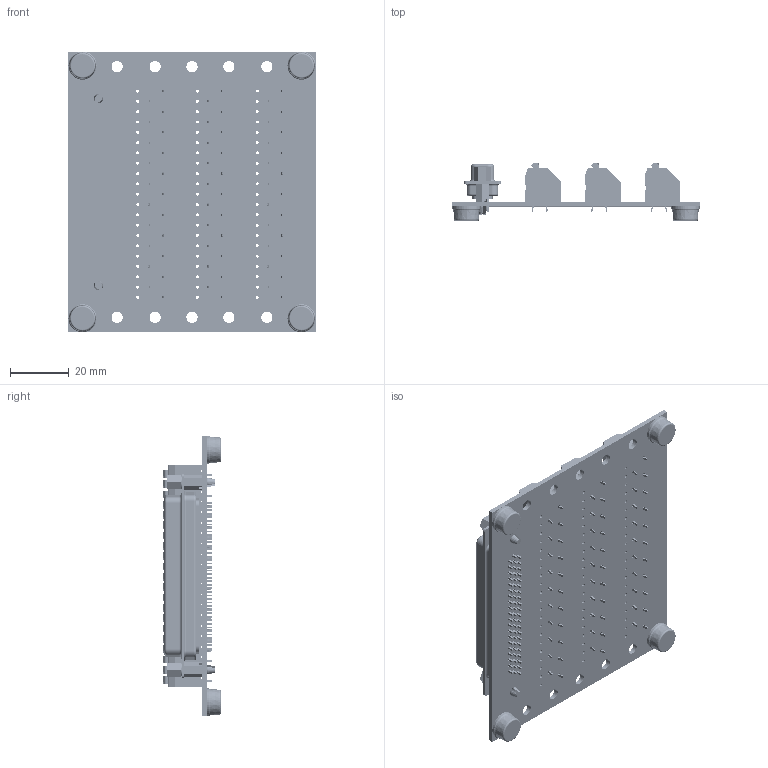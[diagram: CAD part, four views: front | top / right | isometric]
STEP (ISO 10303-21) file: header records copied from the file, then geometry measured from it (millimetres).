
FILE_DESCRIPTION (( 'STEP AP214' ), '1' );
FILE_NAME ('brkg62hdf-s-ft_rev_a.step', '2025-04-22T21:02:25', ( '' ), ( '' ), 'SwSTEP 2.0', 'SolidWorks 2018', '' );
FILE_SCHEMA (( 'AUTOMOTIVE_DESIGN' ));
Length unit declared in the file: inch
Products named in the file (6): 62 Pin Female Straight connector_62 Pin Female Straight Connector; brkg62hdf-s_pcb; Spring Terminal 21 Position; round rubber foot; brkg62hdf-s-ft_rev_a; #4-40 Hex Screw
Assembly tree (11 placements, depth 2):
  brkg62hdf-s-ft_rev_a
    brkg62hdf-s_pcb
    Spring Terminal 21 Position  x3
    62 Pin Female Straight connector_62 Pin Female Straight Connector
    #4-40 Hex Screw  x2
    round rubber foot  x4
Bounding box: 83.82 x 19.51 x 95.25 mm (x, y, z)
Volume: 45323.4 mm3; surface area: 40032.1 mm2
Topology: 11 solids, 11 shells, 9680 faces, 25674 edges, 16598 vertices
Faces by surface type: plane 5761, cylinder 2301, bspline 1090, cone 488, torus 40
Entity records: 310213 total; most frequent: CARTESIAN_POINT 102929, ORIENTED_EDGE 30660, DIRECTION 24499, EDGE_CURVE 15330, VERTEX_POINT 10010, VECTOR 10005, LINE 10005, AXIS2_PLACEMENT_3D 7247
